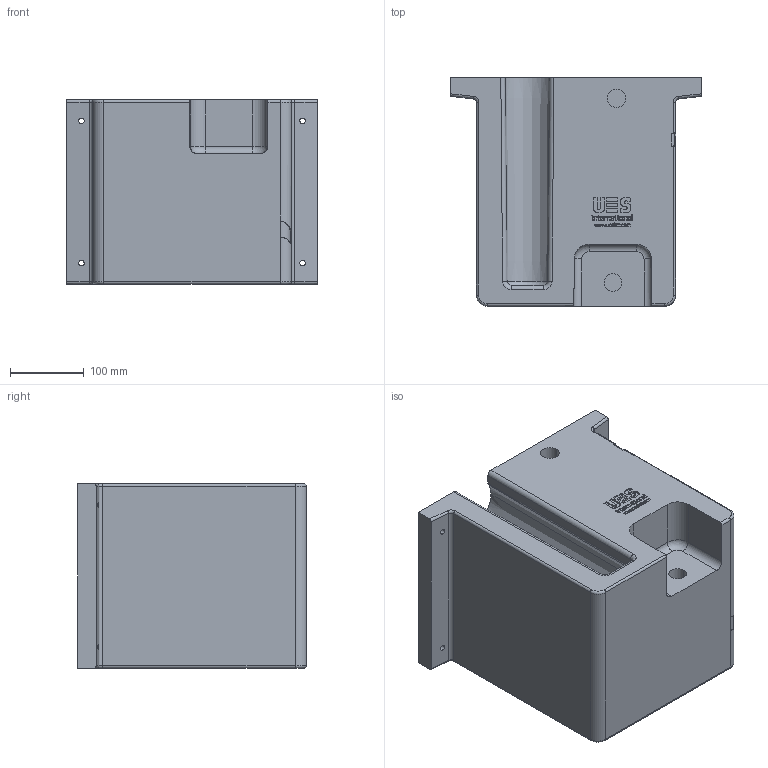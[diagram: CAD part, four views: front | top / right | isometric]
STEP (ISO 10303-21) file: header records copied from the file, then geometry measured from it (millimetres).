
FILE_DESCRIPTION (( 'STEP AP203' ), '1' );
FILE_NAME ('RJ15 Body.STEP', '2019-01-23T05:29:02', ( '' ), ( '' ), 'SwSTEP 2.0', 'SolidWorks 2018', '' );
FILE_SCHEMA (( 'CONFIG_CONTROL_DESIGN' ));
Length unit declared in the file: millimetre
Products named in the file (1): RJ15 Body
Bounding box: 340 x 310 x 250 mm (x, y, z)
Volume: 19438173.9 mm3; surface area: 544895.7 mm2
Topology: 1 solids, 1 shells, 497 faces, 1315 edges, 866 vertices
Faces by surface type: plane 291, bspline 147, cylinder 41, torus 15, cone 3
Entity records: 16719 total; most frequent: CARTESIAN_POINT 5320, ORIENTED_EDGE 2630, DIRECTION 1776, EDGE_CURVE 1315, VECTOR 912, LINE 912, VERTEX_POINT 866, EDGE_LOOP 551
